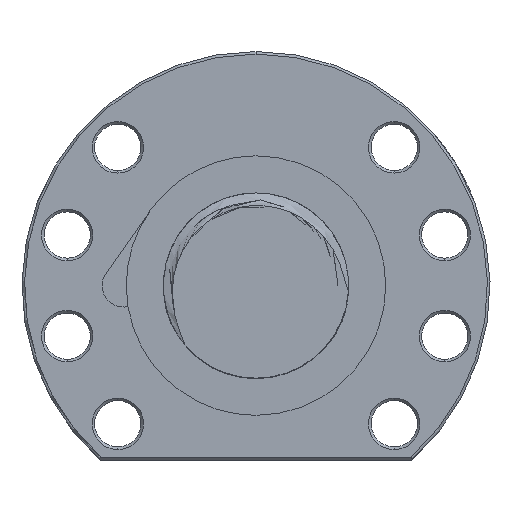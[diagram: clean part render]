
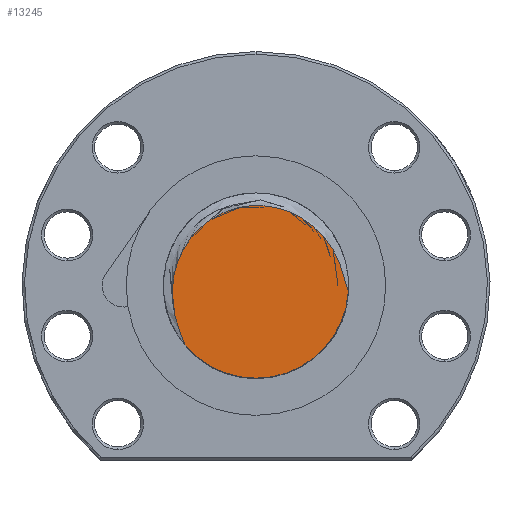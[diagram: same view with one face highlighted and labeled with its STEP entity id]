
A CAD part, left-side view. The second image highlights one B-rep face of the part: STEP entity #13245.
In plain terms, the highlighted planar face has unit normal (-1, 0, 0).
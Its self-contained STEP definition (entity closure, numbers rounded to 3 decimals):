
#12480 = VERTEX_POINT ( 'NONE', #15398 ) ;
#12489 = VERTEX_POINT ( 'NONE', #15357 ) ;
#12491 = EDGE_CURVE ( 'NONE', #12489, #12480, #15356, .T. ) ;
#13073 = EDGE_CURVE ( 'NONE', #13074, #12489, #23007, .T. ) ;
#13074 = VERTEX_POINT ( 'NONE', #23008 ) ;
#13245 = ADVANCED_FACE ( 'NONE', ( #25966 ), #26107, .F. ) ;
#13246 = EDGE_LOOP ( 'NONE', ( #13247, #13248, #13250 ) ) ;
#13247 = ORIENTED_EDGE ( 'NONE', *, *, #13073, .F. ) ;
#13248 = ORIENTED_EDGE ( 'NONE', *, *, #13249, .T. ) ;
#13249 = EDGE_CURVE ( 'NONE', #13074, #12480, #26092, .T. ) ;
#13250 = ORIENTED_EDGE ( 'NONE', *, *, #12491, .F. ) ;
#15352 = DIRECTION ( 'NONE',  ( 0., 1., 0. ) ) ;
#15353 = DIRECTION ( 'NONE',  ( 1., 0., 0. ) ) ;
#15354 = CARTESIAN_POINT ( 'NONE',  ( -128., 0., 0. ) ) ;
#15355 = AXIS2_PLACEMENT_3D ( 'NONE', #15354, #15353, #15352 ) ;
#15356 = CIRCLE ( 'NONE', #15355, 18. ) ;
#15357 = CARTESIAN_POINT ( 'NONE',  ( -128., 0., -18. ) ) ;
#15398 = CARTESIAN_POINT ( 'NONE',  ( -128., 13.807, -11.548 ) ) ;
#23004 = DIRECTION ( 'NONE',  ( 0., 1., 0. ) ) ;
#23005 = DIRECTION ( 'NONE',  ( 1., 0., 0. ) ) ;
#23006 = AXIS2_PLACEMENT_3D ( 'NONE', #23048, #23005, #23004 ) ;
#23007 = CIRCLE ( 'NONE', #23006, 18. ) ;
#23008 = CARTESIAN_POINT ( 'NONE',  ( -128., -17.958, -1.227 ) ) ;
#23048 = CARTESIAN_POINT ( 'NONE',  ( -128., 0., 0. ) ) ;
#25815 = CARTESIAN_POINT ( 'NONE',  ( -128., 13.807, -11.548 ) ) ;
#25816 = CARTESIAN_POINT ( 'NONE',  ( -128., 13.914, -11.232 ) ) ;
#25817 = CARTESIAN_POINT ( 'NONE',  ( -128., 14.037, -10.923 ) ) ;
#25818 = CARTESIAN_POINT ( 'NONE',  ( -128., 14.283, -10.305 ) ) ;
#25819 = CARTESIAN_POINT ( 'NONE',  ( -128., 14.408, -9.996 ) ) ;
#25820 = CARTESIAN_POINT ( 'NONE',  ( -128., 14.774, -9.067 ) ) ;
#25821 = CARTESIAN_POINT ( 'NONE',  ( -128., 15.006, -8.443 ) ) ;
#25822 = CARTESIAN_POINT ( 'NONE',  ( -128., 15.419, -7.18 ) ) ;
#25823 = CARTESIAN_POINT ( 'NONE',  ( -128., 15.6, -6.542 ) ) ;
#25824 = CARTESIAN_POINT ( 'NONE',  ( -128., 15.904, -5.25 ) ) ;
#25825 = CARTESIAN_POINT ( 'NONE',  ( -128., 16.027, -4.594 ) ) ;
#25826 = CARTESIAN_POINT ( 'NONE',  ( -128., 16.291, -2.619 ) ) ;
#25827 = CARTESIAN_POINT ( 'NONE',  ( -128., 16.33, -1.303 ) ) ;
#25828 = CARTESIAN_POINT ( 'NONE',  ( -128., 16.198, 0.344 ) ) ;
#25829 = CARTESIAN_POINT ( 'NONE',  ( -128., 16.162, 0.673 ) ) ;
#25830 = CARTESIAN_POINT ( 'NONE',  ( -128., 16.073, 1.332 ) ) ;
#25831 = CARTESIAN_POINT ( 'NONE',  ( -128., 16.019, 1.662 ) ) ;
#25832 = CARTESIAN_POINT ( 'NONE',  ( -128., 15.83, 2.639 ) ) ;
#25833 = CARTESIAN_POINT ( 'NONE',  ( -128., 15.669, 3.279 ) ) ;
#25834 = CARTESIAN_POINT ( 'NONE',  ( -128., 15.274, 4.534 ) ) ;
#25835 = CARTESIAN_POINT ( 'NONE',  ( -128., 15.041, 5.15 ) ) ;
#25836 = CARTESIAN_POINT ( 'NONE',  ( -128., 14.5, 6.358 ) ) ;
#25837 = CARTESIAN_POINT ( 'NONE',  ( -128., 14.19, 6.952 ) ) ;
#25838 = CARTESIAN_POINT ( 'NONE',  ( -128., 13.17, 8.657 ) ) ;
#25839 = CARTESIAN_POINT ( 'NONE',  ( -128., 12.368, 9.701 ) ) ;
#25840 = CARTESIAN_POINT ( 'NONE',  ( -128., 11.207, 10.885 ) ) ;
#25841 = CARTESIAN_POINT ( 'NONE',  ( -128., 10.965, 11.117 ) ) ;
#25842 = CARTESIAN_POINT ( 'NONE',  ( -128., 10.471, 11.562 ) ) ;
#25843 = CARTESIAN_POINT ( 'NONE',  ( -128., 10.219, 11.777 ) ) ;
#25844 = CARTESIAN_POINT ( 'NONE',  ( -128., 9.444, 12.394 ) ) ;
#25845 = CARTESIAN_POINT ( 'NONE',  ( -128., 8.905, 12.773 ) ) ;
#25846 = CARTESIAN_POINT ( 'NONE',  ( -128., 7.785, 13.465 ) ) ;
#25847 = CARTESIAN_POINT ( 'NONE',  ( -128., 7.203, 13.778 ) ) ;
#25848 = CARTESIAN_POINT ( 'NONE',  ( -128., 5.994, 14.338 ) ) ;
#25849 = CARTESIAN_POINT ( 'NONE',  ( -128., 5.374, 14.58 ) ) ;
#25851 = CARTESIAN_POINT ( 'NONE',  ( -128., 4.12, 14.984 ) ) ;
#25853 = CARTESIAN_POINT ( 'NONE',  ( -128., 3.483, 15.146 ) ) ;
#25855 = CARTESIAN_POINT ( 'NONE',  ( -128., 2.188, 15.394 ) ) ;
#25857 = CARTESIAN_POINT ( 'NONE',  ( -128., 1.529, 15.48 ) ) ;
#25859 = CARTESIAN_POINT ( 'NONE',  ( -128., -0.464, 15.617 ) ) ;
#25861 = CARTESIAN_POINT ( 'NONE',  ( -128., -1.778, 15.549 ) ) ;
#25863 = CARTESIAN_POINT ( 'NONE',  ( -128., -3.402, 15.268 ) ) ;
#25865 = CARTESIAN_POINT ( 'NONE',  ( -128., -3.726, 15.202 ) ) ;
#25866 = CARTESIAN_POINT ( 'NONE',  ( -128., -4.372, 15.05 ) ) ;
#25868 = CARTESIAN_POINT ( 'NONE',  ( -128., -4.695, 14.963 ) ) ;
#25870 = CARTESIAN_POINT ( 'NONE',  ( -128., -5.65, 14.676 ) ) ;
#25872 = CARTESIAN_POINT ( 'NONE',  ( -128., -6.269, 14.448 ) ) ;
#25874 = CARTESIAN_POINT ( 'NONE',  ( -128., -7.475, 13.925 ) ) ;
#25966 = FACE_OUTER_BOUND ( 'NONE', #13246, .T. ) ;
#26052 = CARTESIAN_POINT ( 'NONE',  ( -128., -8.062, 13.629 ) ) ;
#26055 = CARTESIAN_POINT ( 'NONE',  ( -128., -8.918, 13.133 ) ) ;
#26056 = CARTESIAN_POINT ( 'NONE',  ( -128., -9.199, 12.959 ) ) ;
#26058 = CARTESIAN_POINT ( 'NONE',  ( -128., -9.753, 12.593 ) ) ;
#26060 = CARTESIAN_POINT ( 'NONE',  ( -128., -10.026, 12.401 ) ) ;
#26062 = CARTESIAN_POINT ( 'NONE',  ( -128., -11.357, 11.405 ) ) ;
#26064 = CARTESIAN_POINT ( 'NONE',  ( -128., -12.31, 10.499 ) ) ;
#26065 = CARTESIAN_POINT ( 'NONE',  ( -128., -13.377, 9.241 ) ) ;
#26066 = CARTESIAN_POINT ( 'NONE',  ( -128., -13.584, 8.983 ) ) ;
#26068 = CARTESIAN_POINT ( 'NONE',  ( -128., -13.986, 8.455 ) ) ;
#26070 = CARTESIAN_POINT ( 'NONE',  ( -128., -14.18, 8.183 ) ) ;
#26072 = CARTESIAN_POINT ( 'NONE',  ( -128., -14.739, 7.359 ) ) ;
#26074 = CARTESIAN_POINT ( 'NONE',  ( -128., -15.079, 6.795 ) ) ;
#26075 = CARTESIAN_POINT ( 'NONE',  ( -128., -16.008, 5.062 ) ) ;
#26076 = CARTESIAN_POINT ( 'NONE',  ( -128., -16.503, 3.852 ) ) ;
#26078 = CARTESIAN_POINT ( 'NONE',  ( -128., -17.107, 1.973 ) ) ;
#26080 = CARTESIAN_POINT ( 'NONE',  ( -128., -17.285, 1.336 ) ) ;
#26082 = CARTESIAN_POINT ( 'NONE',  ( -128., -17.533, 0.374 ) ) ;
#26084 = CARTESIAN_POINT ( 'NONE',  ( -128., -17.613, 0.052 ) ) ;
#26086 = CARTESIAN_POINT ( 'NONE',  ( -128., -17.776, -0.59 ) ) ;
#26088 = CARTESIAN_POINT ( 'NONE',  ( -128., -17.859, -0.911 ) ) ;
#26089 = CARTESIAN_POINT ( 'NONE',  ( -128., -17.958, -1.227 ) ) ;
#26092 = B_SPLINE_CURVE_WITH_KNOTS ( 'NONE', 3,
 ( #26089, #26088, #26086, #26084, #26082, #26080, #26078, #26076, #26075, #26074, #26072, #26070, #26068, #26066, #26065, #26064, #26062, #26060, #26058, #26056, #26055, #26052, #25874, #25872, #25870, #25868, #25866, #25865, #25863, #25861, #25859, #25857, #25855, #25853, #25851, #25849, #25848, #25847, #25846, #25845, #25844, #25843, #25842, #25841, #25840, #25839, #25838, #25837, #25836, #25835, #25834, #25833, #25832, #25831, #25830, #25829, #25828, #25827, #25826, #25825, #25824, #25823, #25822, #25821, #25820, #25819, #25818, #25817, #25816, #25815 ),
 .UNSPECIFIED., .F., .F.,
 ( 4, 2, 2, 2, 2, 2, 2, 2, 2, 2, 2, 2, 2, 2, 2, 2, 2, 2, 2, 2, 2, 2, 2, 2, 2, 2, 2, 2, 2, 2, 2, 2, 2, 2, 4 ),
 ( 0.001, 0.002, 0.003, 0.005, 0.009, 0.011, 0.012, 0.013, 0.017, 0.018, 0.019, 0.021, 0.023, 0.024, 0.025, 0.028, 0.03, 0.032, 0.034, 0.036, 0.038, 0.039, 0.04, 0.044, 0.046, 0.048, 0.05, 0.051, 0.052, 0.056, 0.058, 0.06, 0.062, 0.063, 0.064 ),
 .UNSPECIFIED. ) ;
#26099 = DIRECTION ( 'NONE',  ( 0., 0., -1. ) ) ;
#26101 = DIRECTION ( 'NONE',  ( 1., 0., 0. ) ) ;
#26103 = CARTESIAN_POINT ( 'NONE',  ( -128., 0., 0. ) ) ;
#26105 = AXIS2_PLACEMENT_3D ( 'NONE', #26103, #26101, #26099 ) ;
#26107 = PLANE ( 'NONE',  #26105 ) ;
